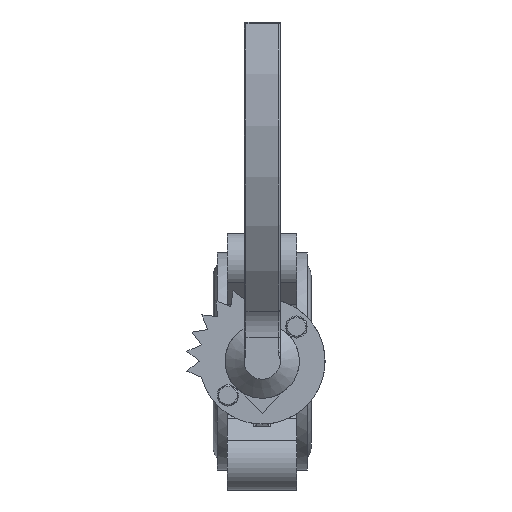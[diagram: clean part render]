
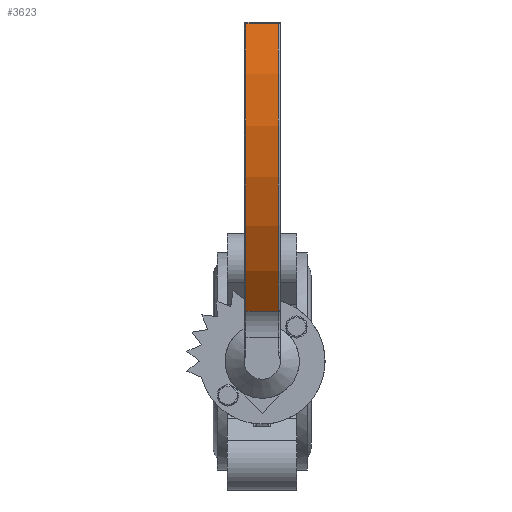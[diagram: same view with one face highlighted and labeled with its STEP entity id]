
A CAD part, top view. The second image highlights one B-rep face of the part: STEP entity #3623.
In plain terms, the highlighted cylindrical face has radius 162.707 mm (diameter 325.415 mm), a partial arc.
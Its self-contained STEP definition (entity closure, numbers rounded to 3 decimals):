
#3623=ADVANCED_FACE('',(#8497),#8499,.T.);
#8497=FACE_BOUND('',#8498,.T.);
#8498=EDGE_LOOP('',(#12492,#12493,#12494,#12495));
#8499=CYLINDRICAL_SURFACE('',#8500,162.707);
#8500=AXIS2_PLACEMENT_3D('',#8501,#8502,#8503);
#8501=CARTESIAN_POINT('',(136.531,-9.375,-95.703));
#8502=DIRECTION('',(0.,1.,0.));
#8503=DIRECTION('',(-0.682,0.,0.732));
#12492=ORIENTED_EDGE('',*,*,#14151,.F.);
#12493=ORIENTED_EDGE('',*,*,#14176,.F.);
#12494=ORIENTED_EDGE('',*,*,#14169,.T.);
#12495=ORIENTED_EDGE('',*,*,#14177,.T.);
#14151=EDGE_CURVE('',#16695,#16698,#16699,.T.);
#14169=EDGE_CURVE('',#16723,#16724,#16725,.T.);
#14176=EDGE_CURVE('',#16723,#16695,#16732,.T.);
#14177=EDGE_CURVE('',#16724,#16698,#16733,.T.);
#16695=VERTEX_POINT('',#25529);
#16698=VERTEX_POINT('',#25538);
#16699=CIRCLE('',#25539,162.707);
#16723=VERTEX_POINT('',#25606);
#16724=VERTEX_POINT('',#25607);
#16725=CIRCLE('',#25608,162.707);
#16732=LINE('',#25671,#25672);
#16733=LINE('',#25674,#25675);
#25529=CARTESIAN_POINT('',(25.64,8.375,23.364));
#25538=CARTESIAN_POINT('',(174.232,8.375,62.577));
#25539=AXIS2_PLACEMENT_3D('',#25540,#25541,#25542);
#25540=CARTESIAN_POINT('',(136.531,8.375,-95.703));
#25541=DIRECTION('',(0.,1.,0.));
#25542=DIRECTION('',(-0.682,0.,0.732));
#25606=CARTESIAN_POINT('',(25.64,-8.375,23.364));
#25607=CARTESIAN_POINT('',(174.232,-8.375,62.577));
#25608=AXIS2_PLACEMENT_3D('',#25609,#25610,#25611);
#25609=CARTESIAN_POINT('',(136.531,-8.375,-95.703));
#25610=DIRECTION('',(0.,1.,0.));
#25611=DIRECTION('',(-0.682,0.,0.732));
#25671=CARTESIAN_POINT('',(25.64,-8.375,23.364));
#25672=VECTOR('',#25673,1.);
#25673=DIRECTION('',(0.,1.,0.));
#25674=CARTESIAN_POINT('',(174.232,-8.375,62.577));
#25675=VECTOR('',#25676,1.);
#25676=DIRECTION('',(0.,1.,0.));
